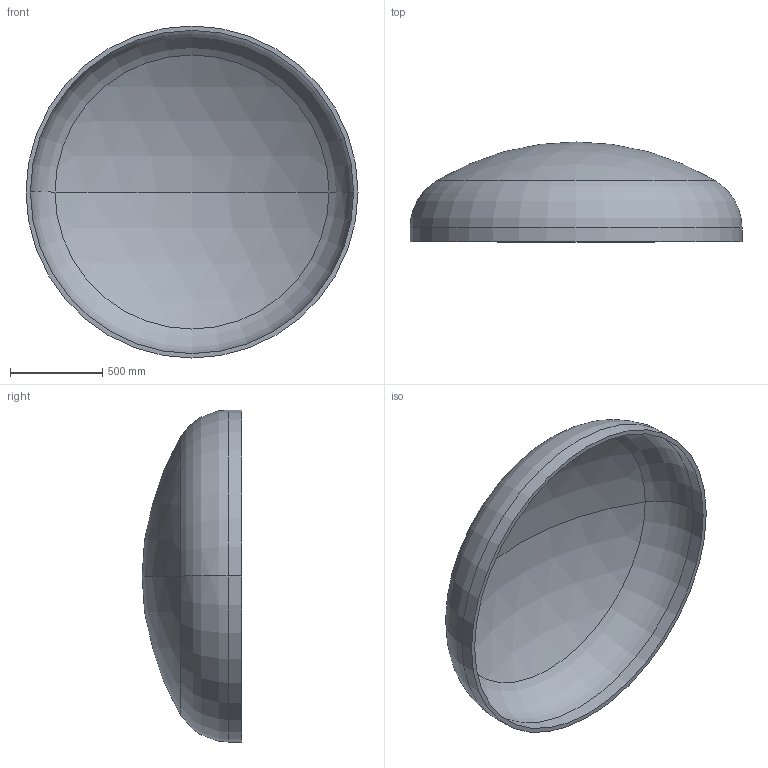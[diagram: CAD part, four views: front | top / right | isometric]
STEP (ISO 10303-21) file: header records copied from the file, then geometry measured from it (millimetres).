
FILE_DESCRIPTION (( 'STEP AP203' ), '1' );
FILE_NAME ('DIN 28013 Korbbogenform_-_Boden DIN 28013 - 1800 x 75 - I - s=24.step', '2016-07-01T12:22:49', ( '' ), ( '' ), 'SwSTEP 2.0', 'SolidWorks 2013', '' );
FILE_SCHEMA (( 'CONFIG_CONTROL_DESIGN' ));
Length unit declared in the file: millimetre
Products named in the file (1): DIN 28013 Korbbogenform_-_Boden DIN 28013 - 1800 x 75 - I - s=24
Bounding box: 1800 x 540.99 x 1800 mm (x, y, z)
Volume: 93020349.9 mm3; surface area: 7886806.7 mm2
Topology: 1 solids, 1 shells, 13 faces, 24 edges, 14 vertices
Faces by surface type: torus 4, cylinder 4, sphere 4, plane 1
Entity records: 407 total; most frequent: DIRECTION 72, CARTESIAN_POINT 52, ORIENTED_EDGE 48, AXIS2_PLACEMENT_3D 34, EDGE_CURVE 24, CIRCLE 20, EDGE_LOOP 14, VERTEX_POINT 14
